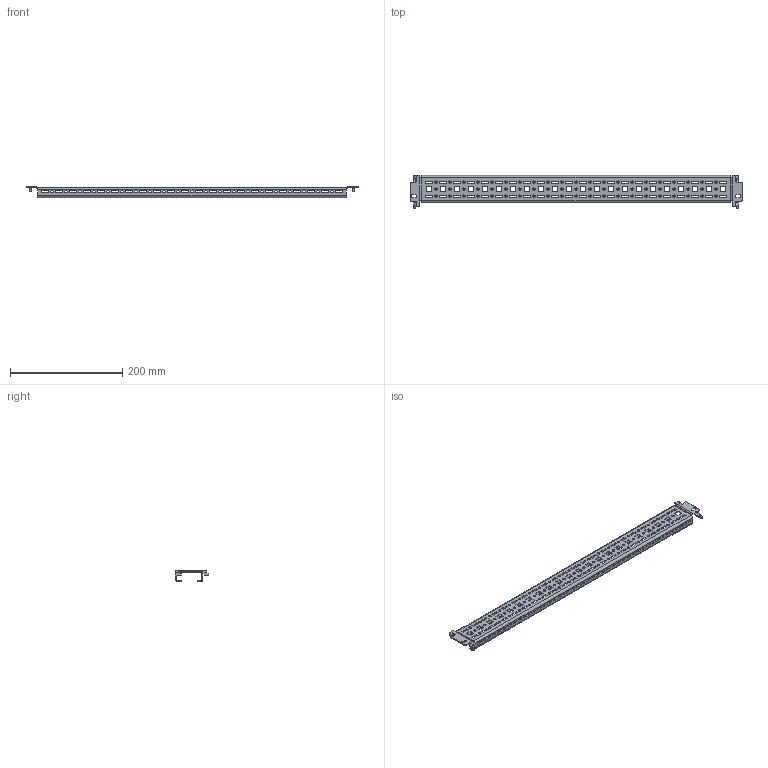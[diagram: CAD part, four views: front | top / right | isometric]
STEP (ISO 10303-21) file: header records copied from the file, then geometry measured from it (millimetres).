
FILE_DESCRIPTION (( 'STEP AP203' ), '1' );
FILE_NAME ('MMD 60.06 Øàññè ñèñòåìíîå.STEP', '2025-05-15T11:43:38', ( '' ), ( '' ), 'SwSTEP 2.0', 'SolidWorks 2019', '' );
FILE_SCHEMA (( 'CONFIG_CONTROL_DESIGN' ));
Length unit declared in the file: millimetre
Products named in the file (1): MMD 60.06 Øàññè ñèñòåìíîå
Bounding box: 592.72 x 60.5 x 20.03 mm (x, y, z)
Volume: 89322.6 mm3; surface area: 102790.1 mm2
Topology: 1 solids, 1 shells, 826 faces, 2392 edges, 1568 vertices
Faces by surface type: plane 546, cylinder 280
Entity records: 28037 total; most frequent: CARTESIAN_POINT 4855, ORIENTED_EDGE 4784, DIRECTION 4590, EDGE_CURVE 2392, VECTOR 1816, LINE 1816, VERTEX_POINT 1568, AXIS2_PLACEMENT_3D 1387
